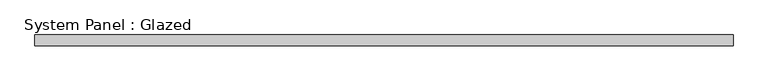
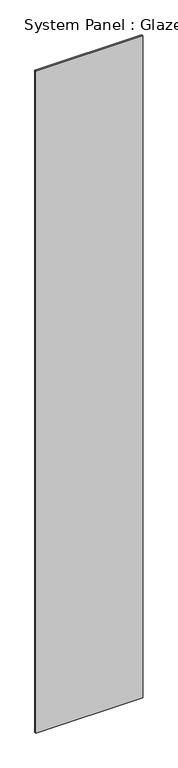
"""IFC4 building model written with IfcOpenShell, lengths in millimetres: plate geometry, System Panel : Glazed."""

import ifcopenshell
import ifcopenshell.guid

model = None  # the IFC model being written
_history = None  # IfcOwnerHistory: only IFC2X3 demands one
_inside = {}  # id of a spatial element -> (the spatial element, [elements in it])
_under = {}  # id of a project, library or spatial element -> (it, [spatial elements below it])
_declared = {}  # id of a project -> (the project, [libraries it declares])
_typed = {}  # id of a type object -> (the type object, [elements of that type])
_made_of = {}  # id of a material, layer set ... -> (it, [elements and type objects made of it])


def new_model(schema):
    """Start an empty IFC model of exactly this schema.

    Asked for "IFC4X3", IfcOpenShell would pick the latest addendum, in which some entities
    have other attributes; the version numbers below select the first issue.
    IFC2X3 requires an IfcOwnerHistory on every rooted entity: one is made here for all.
    """
    global model, _history
    if schema == "IFC4X3":
        model = ifcopenshell.file(schema_version=(4, 3, 0, 0))
    else:
        model = ifcopenshell.file(schema=schema)
    _inside.clear()
    _under.clear()
    _declared.clear()
    _typed.clear()
    _made_of.clear()
    _history = None
    if model.schema == "IFC2X3":
        org = make("IfcOrganization", Name="unknown")
        user = make(
            "IfcPersonAndOrganization",
            ThePerson=make("IfcPerson", FamilyName="unknown"),
            TheOrganization=org,
        )
        app = make(
            "IfcApplication",
            ApplicationDeveloper=org,
            Version="unknown",
            ApplicationFullName="unknown",
            ApplicationIdentifier="unknown",
        )
        _history = make(
            "IfcOwnerHistory",
            OwningUser=user,
            OwningApplication=app,
            ChangeAction="ADDED",
            CreationDate=0,
        )
    return model


def make(cls, **values):
    """One entity of the class cls with the attributes given. An attribute that is None is left unset."""
    return model.create_entity(
        cls, **{name: value for name, value in values.items() if value is not None}
    )


def rooted(cls, **values):
    """An entity with a GlobalId (a new one), such as an element, a storey or a relation."""
    return make(cls, GlobalId=ifcopenshell.guid.new(), OwnerHistory=_history, **values)


def si_unit(unit_type, name, prefix=None):
    """IfcSIUnit, for example si_unit("LENGTHUNIT", "METRE", prefix="MILLI")."""
    return make("IfcSIUnit", UnitType=unit_type, Prefix=prefix, Name=name)


def assignment(units):
    """IfcUnitAssignment: the units of a project."""
    return None if units is None else make("IfcUnitAssignment", Units=units)


def point(xyz):
    """IfcCartesianPoint."""
    return None if xyz is None else make("IfcCartesianPoint", Coordinates=xyz)


def direction(xyz):
    """IfcDirection."""
    return None if xyz is None else make("IfcDirection", DirectionRatios=xyz)


def frame(location, z_axis=None, x_axis=None):
    """IfcAxis2Placement3D, a coordinate frame: its origin and axes. An axis left out is left unset."""
    return make(
        "IfcAxis2Placement3D",
        Location=point(location),
        Axis=direction(z_axis),
        RefDirection=direction(x_axis),
    )


def origin():
    """The frame at (0, 0, 0) with its axes left unset."""
    return frame((0.0, 0.0, 0.0))


def origin_with_axes():
    """The frame at (0, 0, 0) with the z axis (0, 0, 1) and the x axis (1, 0, 0) written out."""
    return frame((0.0, 0.0, 0.0), z_axis=(0.0, 0.0, 1.0), x_axis=(1.0, 0.0, 0.0))


def place(relative_to, where):
    """IfcLocalPlacement: puts the frame where relative to a parent placement (None: the world)."""
    return make(
        "IfcLocalPlacement", PlacementRelTo=relative_to, RelativePlacement=where
    )


def context(
    kind, dimensions, precision=None, world=None, true_north=None, identifier=None
):
    """IfcGeometricRepresentationContext, for example the 3D "Model" context."""
    return make(
        "IfcGeometricRepresentationContext",
        ContextIdentifier=identifier,
        ContextType=kind,
        CoordinateSpaceDimension=dimensions,
        Precision=precision,
        WorldCoordinateSystem=world,
        TrueNorth=true_north,
    )


def project(units=None, contexts=None):
    """IfcProject with its units and contexts."""
    return rooted(
        "IfcProject",
        Name="project",
        RepresentationContexts=contexts,
        UnitsInContext=assignment(units),
    )


def spatial(cls, under=None, at=None, **own):
    """A site, building, storey or space (cls), placed at a placement, below another one or the project."""
    s = rooted(cls, ObjectPlacement=at, **own)
    if under is not None:
        _under.setdefault(under.id(), (under, []))[1].append(s)
    return s


def polyline(points):
    """IfcPolyline through the points."""
    return make("IfcPolyline", Points=[point(p) for p in points])


def outline(outer, holes=None, kind="AREA"):
    """IfcArbitraryClosedProfileDef: a profile drawn as a closed curve; with holes, ...WithVoids."""
    if holes is None:
        return make("IfcArbitraryClosedProfileDef", ProfileType=kind, OuterCurve=outer)
    return make(
        "IfcArbitraryProfileDefWithVoids",
        ProfileType=kind,
        OuterCurve=outer,
        InnerCurves=holes,
    )


def extrude(swept, where, along, depth):
    """IfcExtrudedAreaSolid: the profile swept, set in the frame where, extruded along a direction by depth."""
    return make(
        "IfcExtrudedAreaSolid",
        SweptArea=swept,
        Position=where,
        ExtrudedDirection=direction(along),
        Depth=depth,
    )


def shape(context_of_items, identifier, shape_type, items):
    """IfcShapeRepresentation: the items that make up one representation, for example the "Body"."""
    return make(
        "IfcShapeRepresentation",
        ContextOfItems=context_of_items,
        RepresentationIdentifier=identifier,
        RepresentationType=shape_type,
        Items=items,
    )


def source(mapping_origin, context_of_items, identifier, shape_type, items):
    """IfcRepresentationMap: a shape defined once, which mapped items show again and again."""
    return make(
        "IfcRepresentationMap",
        MappingOrigin=mapping_origin,
        MappedRepresentation=shape(context_of_items, identifier, shape_type, items),
    )


def transform(
    local_origin,
    x_axis=None,
    y_axis=None,
    z_axis=None,
    scale=None,
    scale2=None,
    scale3=None,
    uniform=True,
):
    """IfcCartesianTransformationOperator3D, or its non-uniform kind. x_axis, y_axis, z_axis: its Axis1, 2, 3."""
    if uniform:
        return make(
            "IfcCartesianTransformationOperator3D",
            Axis1=direction(x_axis),
            Axis2=direction(y_axis),
            LocalOrigin=point(local_origin),
            Scale=scale,
            Axis3=direction(z_axis),
        )
    return make(
        "IfcCartesianTransformationOperator3DnonUniform",
        Axis1=direction(x_axis),
        Axis2=direction(y_axis),
        LocalOrigin=point(local_origin),
        Scale=scale,
        Axis3=direction(z_axis),
        Scale2=scale2,
        Scale3=scale3,
    )


def mapped(mapping_source, mapping_target):
    """IfcMappedItem: shows the shape of a source again, moved by a transform."""
    return make(
        "IfcMappedItem", MappingSource=mapping_source, MappingTarget=mapping_target
    )


def made_of(thing, what):
    """Note that an element or type object is made of a material, layer set ...; save() writes the relation."""
    if what is not None:
        _made_of.setdefault(what.id(), (what, []))[1].append(thing)
    return thing


def element(
    cls,
    number,
    at=None,
    inside=None,
    cuts=None,
    type_object=None,
    material=None,
    context=None,
    identifier="Body",
    shape_type=None,
    held_by="IfcProductDefinitionShape",
    body=None,
    shapes=None,
    **own,
):
    """One element of the class cls, such as IfcWall. Its Tag is "e" and its number.

    at: its placement. inside: the storey or other place that contains it. cuts: it is an
    opening in that element (IfcRelVoidsElement). A single representation is given by context,
    identifier, shape_type and body (its items); several are given by shapes. held_by: the class
    of the entity that holds the representations. save() writes the other relations.
    """
    e = rooted(cls, Tag="e%d" % number, ObjectPlacement=at, **own)
    if body is not None:
        shapes = [shape(context, identifier, shape_type, body)]
    if shapes is not None:
        e.Representation = make(held_by, Representations=shapes)
    if inside is not None:
        _inside.setdefault(inside.id(), (inside, []))[1].append(e)
    if cuts is not None:
        rooted(
            "IfcRelVoidsElement", RelatingBuildingElement=cuts, RelatedOpeningElement=e
        )
    if type_object is not None:
        _typed.setdefault(type_object.id(), (type_object, []))[1].append(e)
    return made_of(e, material)


def aggregate(whole, parts):
    """IfcRelAggregates: a whole, such as a stair, and the parts it consists of."""
    return rooted("IfcRelAggregates", RelatingObject=whole, RelatedObjects=parts)


def save(model, path):
    """Write the relations noted so far, then the file.

    IfcRelAggregates (storeys below a building ...), IfcRelContainedInSpatialStructure (elements
    in a storey), IfcRelDefinesByType, IfcRelAssociatesMaterial and IfcRelDeclares: one each for
    every whole, place, type object, material and project.
    """
    for whole, parts in _under.values():
        aggregate(whole, parts)
    for where, things in _inside.values():
        rooted(
            "IfcRelContainedInSpatialStructure",
            RelatedElements=things,
            RelatingStructure=where,
        )
    for kind, things in _typed.values():
        rooted("IfcRelDefinesByType", RelatedObjects=things, RelatingType=kind)
    for what, things in _made_of.values():
        rooted("IfcRelAssociatesMaterial", RelatedObjects=things, RelatingMaterial=what)
    for by, libraries in _declared.values():
        rooted("IfcRelDeclares", RelatingContext=by, RelatedDefinitions=libraries)
    model.write(path)


def system_panel_glazed_78f67ebd(model_context):
    return source(origin(), model_context, "Body", "SweptSolid", [
        extrude(outline(polyline([(794.9, -12.5), (-794.9, -12.5), (-794.9, 12.5), (794.9, 12.5), (794.9, -12.5)])), origin_with_axes(), (0.0, 0.0, 1.0), 10400.0),
    ])


if __name__ == "__main__":
    model = new_model("IFC4")
    model_context = context("Model", 3, world=origin())
    ifc_project = project(units=[si_unit("LENGTHUNIT", "METRE", prefix="MILLI")], contexts=[model_context])
    site = spatial("IfcSite", under=ifc_project)
    building = spatial("IfcBuilding", under=site)
    placement = place(None, origin())
    system_panel_glazed_shape = system_panel_glazed_78f67ebd(model_context)
    element("IfcPlate", 1, ObjectType="System Panel : Glazed", at=placement, inside=building, context=model_context, shape_type="MappedRepresentation", body=[
        mapped(system_panel_glazed_shape, transform((0.0, 0.0, 0.0), x_axis=(1.0, 0.0, 0.0), y_axis=(0.0, 1.0, 0.0), z_axis=(0.0, 0.0, 1.0))),
    ])
    save(model, "model.ifc")
